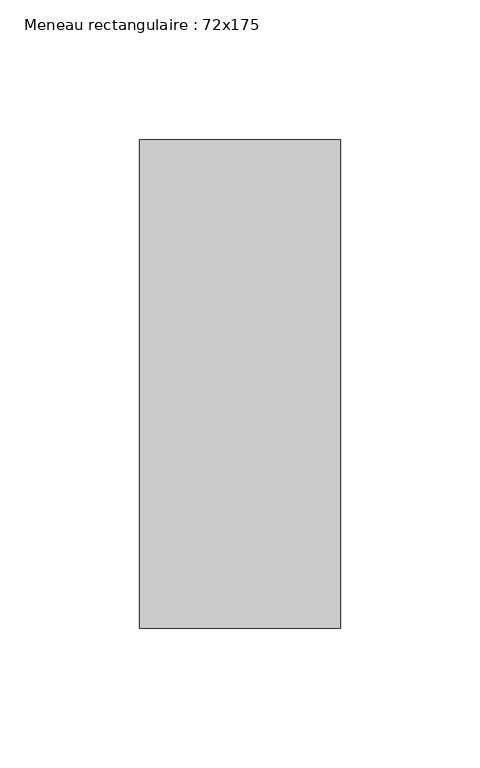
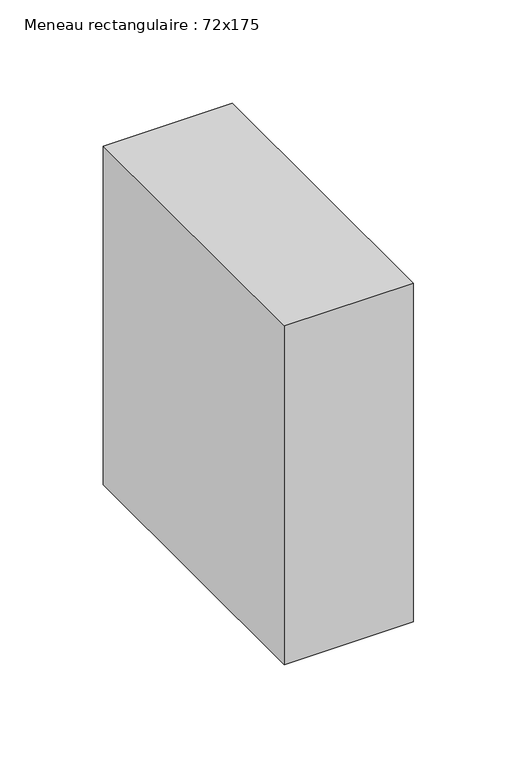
"""IFC4 building model written with IfcOpenShell, lengths in millimetres: member geometry, Meneau rectangulaire : 72x175."""

from ifc_helpers import new_model, si_unit, frame, origin, place, context, project, spatial, polyline, outline, extrude, source, transform, mapped, element, save


def meneau_rectangulaire_72x175_55e540cb(model_context):
    return source(origin(), model_context, "Body", "SweptSolid", [
        extrude(outline(polyline([(36.0, 87.5), (36.0, -87.5), (-36.0, -87.5), (-36.0, 87.5), (36.0, 87.5)])), frame((0.0, 0.0, -200.0), z_axis=(0.0, 0.0, 1.0), x_axis=(1.0, 0.0, 0.0)), (0.0, 0.0, 1.0), 200.0),
    ])


if __name__ == "__main__":
    model = new_model("IFC4")
    model_context = context("Model", 3, world=origin())
    ifc_project = project(units=[si_unit("LENGTHUNIT", "METRE", prefix="MILLI")], contexts=[model_context])
    site = spatial("IfcSite", under=ifc_project)
    building = spatial("IfcBuilding", under=site)
    placement = place(None, origin())
    meneau_rectangulaire_72x175_shape = meneau_rectangulaire_72x175_55e540cb(model_context)
    element("IfcMember", 1, ObjectType="Meneau rectangulaire : 72x175", at=placement, inside=building, context=model_context, shape_type="MappedRepresentation", body=[
        mapped(meneau_rectangulaire_72x175_shape, transform((0.0, 0.0, 0.0), x_axis=(1.0, 0.0, 0.0), y_axis=(0.0, 1.0, 0.0), z_axis=(0.0, 0.0, 1.0))),
    ])
    save(model, "model.ifc")
